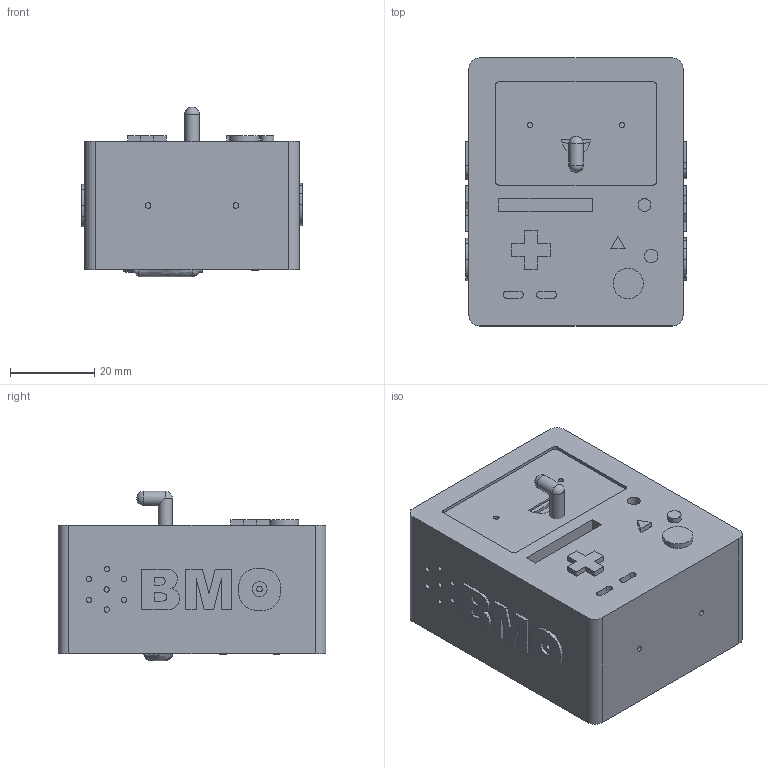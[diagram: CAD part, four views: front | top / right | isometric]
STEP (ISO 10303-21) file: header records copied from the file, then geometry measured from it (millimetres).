
FILE_DESCRIPTION(/* description */ ('Alibre Inc.'),/* implementation_level */ '2;1');
FILE_NAME(/* name */ 'export0',/* time_stamp */ '2012-08-14T16:51:14-05:00',/* author */ (''),/* organization */ (''),/* preprocessor_version */ 'ST-DEVELOPER v14',/* originating_system */ 'Alibre',/* authorisation */ '');
FILE_SCHEMA (('ALIBRE_SCHEMA','CONFIG_CONTROL_DESIGN'));
Length unit declared in the file: centimetre
Products named in the file (4): ID_1
Bounding box: 52.32 x 63.5 x 40.26 mm (x, y, z)
Volume: 96569.1 mm3; surface area: 16084.1 mm2
Topology: 4 solids, 4 shells, 315 faces, 761 edges, 503 vertices
Faces by surface type: plane 171, cylinder 78, bspline 60, sphere 5, torus 1
Full cylindrical faces by diameter (mm): 0.027 x1, 1.143 x1, 1.25 x2, 1.263 x1, 1.27 x14, 1.278 x1, 1.321 x4, 1.546 x4, 3.042 x1, 3.193 x1, 3.421 x2, 3.556 x1, 3.563 x1, 7.157 x1
Entity records: 17449 total; most frequent: CARTESIAN_POINT 3699, ORIENTED_EDGE 1410, DIRECTION 1371, PERSISTANTTOPOLOGYATTRIBUTE 831, CONSTRAINTPAIRUV 734, EDGE_CURVE 705, VECTOR 639, REFERENCEDEPENDENTUV 596
